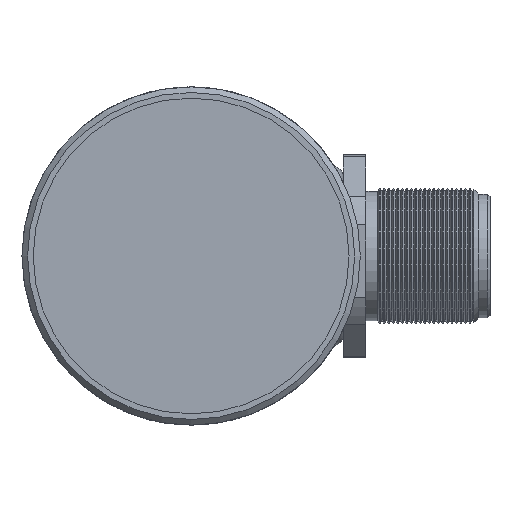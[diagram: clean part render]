
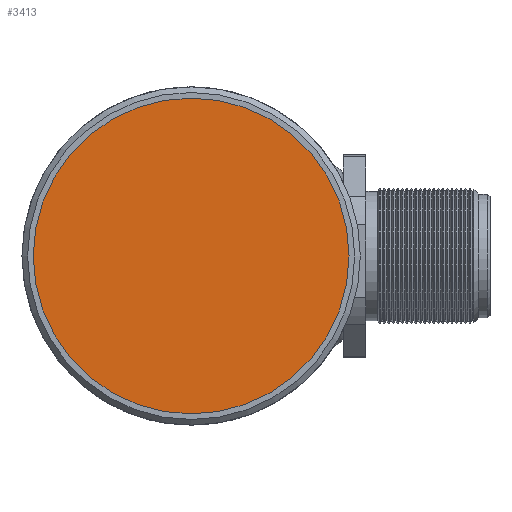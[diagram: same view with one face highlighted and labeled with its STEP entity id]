
A CAD part, left-side view. The second image highlights one B-rep face of the part: STEP entity #3413.
In plain terms, the highlighted planar face has unit normal (-1, 0, 0).
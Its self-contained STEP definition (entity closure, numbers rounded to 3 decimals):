
#430=PLANE('',#3682);
#836=VERTEX_POINT('',#4058);
#1138=CIRCLE('',#3681,14.);
#1310=EDGE_CURVE('',#836,#836,#1138,.T.);
#1774=ORIENTED_EDGE('',*,*,#1310,.T.);
#2680=EDGE_LOOP('',(#1774));
#3051=FACE_BOUND('',#2680,.T.);
#3413=ADVANCED_FACE('',(#3051),#430,.F.);
#3681=AXIS2_PLACEMENT_3D('',#4057,#5697,#5698);
#3682=AXIS2_PLACEMENT_3D('',#4059,#5699,$);
#4057=CARTESIAN_POINT('',(-41.,0.,0.));
#4058=CARTESIAN_POINT('',(-41.,0.,-14.));
#4059=CARTESIAN_POINT('',(-41.,0.,0.));
#5697=DIRECTION('',(-1.,0.,0.));
#5698=DIRECTION('',(0.,0.,-14.));
#5699=DIRECTION('',(1.,0.,0.));
